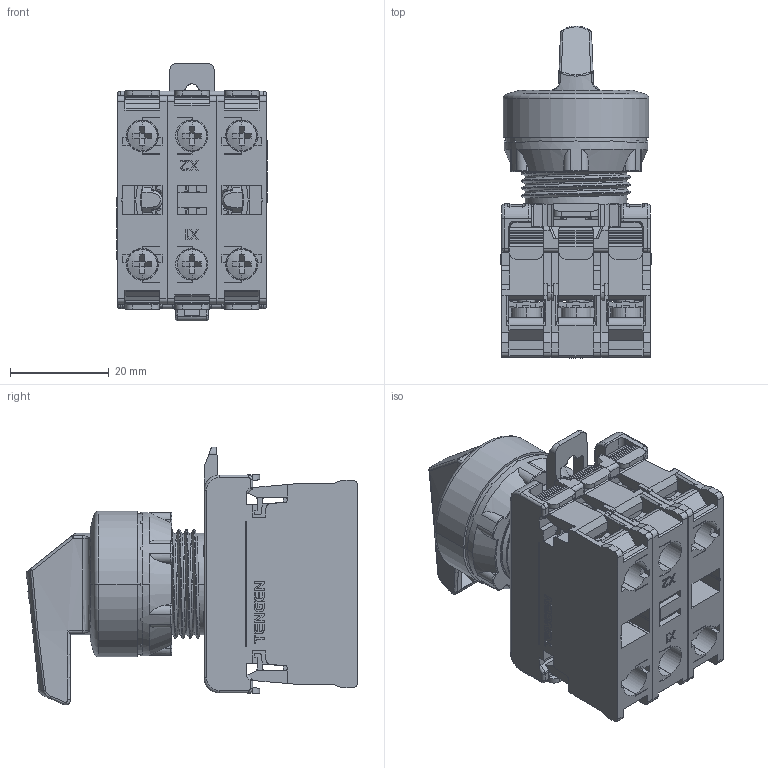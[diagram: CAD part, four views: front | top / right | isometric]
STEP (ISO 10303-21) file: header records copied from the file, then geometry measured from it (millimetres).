
FILE_DESCRIPTION (( 'STEP AP214' ), '1' );
FILE_NAME ('TGLA1-CX.stp', '2026-05-15T09:04:10', ( '' ), ( '' ), 'SwSTEP 2.0', 'SolidWorks 2024', '' );
FILE_SCHEMA (( 'AUTOMOTIVE_DESIGN' ));
Length unit declared in the file: millimetre
Products named in the file (1): TGLA1-CX
Bounding box: 30.5 x 67.12 x 52.16 mm (x, y, z)
Volume: 27288.6 mm3; surface area: 40216.1 mm2
Topology: 7 solids, 13 shells, 3589 faces, 9985 edges, 6441 vertices
Faces by surface type: plane 2171, cylinder 886, bspline 256, cone 175, torus 81, sphere 20
Entity records: 128511 total; most frequent: CARTESIAN_POINT 37119, ORIENTED_EDGE 19962, DIRECTION 18006, EDGE_CURVE 9981, VECTOR 6740, LINE 6740, VERTEX_POINT 6441, AXIS2_PLACEMENT_3D 5633
